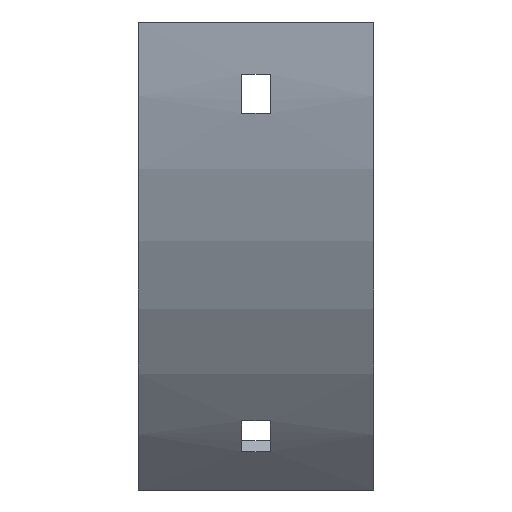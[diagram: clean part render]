
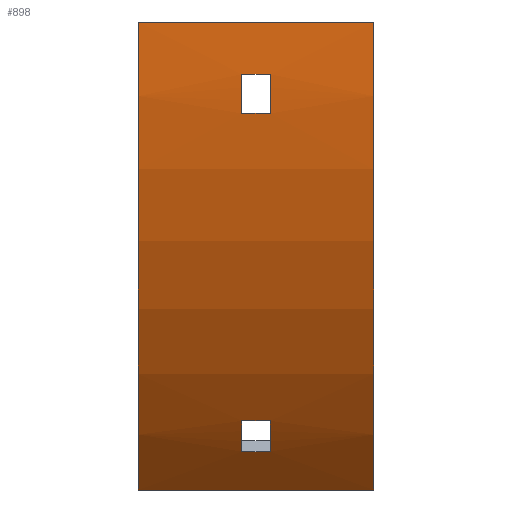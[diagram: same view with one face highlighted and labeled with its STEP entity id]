
A CAD part, front view. The second image highlights one B-rep face of the part: STEP entity #898.
In plain terms, the highlighted cylindrical face has radius 152 mm (diameter 304 mm), a partial arc.
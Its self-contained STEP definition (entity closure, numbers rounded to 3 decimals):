
#5 = CARTESIAN_POINT ( 'NONE',  ( -27., -52., 0. ) ) ;
#17 = CARTESIAN_POINT ( 'NONE',  ( -27., -7.48, -107.48 ) ) ;
#34 = CARTESIAN_POINT ( 'NONE',  ( 3.25, -21.299, -91.6 ) ) ;
#51 = CARTESIAN_POINT ( 'NONE',  ( 3.25, -51.526, -12. ) ) ;
#54 = VERTEX_POINT ( 'NONE', #51 ) ;
#59 = VERTEX_POINT ( 'NONE', #406 ) ;
#69 = DIRECTION ( 'NONE',  ( 0., 0., 1. ) ) ;
#71 = CARTESIAN_POINT ( 'NONE',  ( 27., 100., 0. ) ) ;
#77 = AXIS2_PLACEMENT_3D ( 'NONE', #879, #83, #69 ) ;
#83 = DIRECTION ( 'NONE',  ( -1., 0., 0. ) ) ;
#91 = ORIENTED_EDGE ( 'NONE', *, *, #616, .T. ) ;
#114 = CARTESIAN_POINT ( 'NONE',  ( 27., -52., 0. ) ) ;
#116 = VERTEX_POINT ( 'NONE', #903 ) ;
#120 = VECTOR ( 'NONE', #1040, 1000. ) ;
#128 = DIRECTION ( 'NONE',  ( 1., 0., 0. ) ) ;
#130 = CARTESIAN_POINT ( 'NONE',  ( 27., -21.299, -91.6 ) ) ;
#133 = EDGE_LOOP ( 'NONE', ( #880, #906, #528, #184 ) ) ;
#160 = DIRECTION ( 'NONE',  ( -1., 0., 0. ) ) ;
#171 = VERTEX_POINT ( 'NONE', #17 ) ;
#173 = VERTEX_POINT ( 'NONE', #552 ) ;
#175 = CYLINDRICAL_SURFACE ( 'NONE', #77, 152. ) ;
#184 = ORIENTED_EDGE ( 'NONE', *, *, #1081, .F. ) ;
#200 = CARTESIAN_POINT ( 'NONE',  ( 3.25, -50.542, -21. ) ) ;
#221 = VERTEX_POINT ( 'NONE', #1091 ) ;
#223 = EDGE_CURVE ( 'NONE', #292, #1082, #294, .T. ) ;
#225 = ORIENTED_EDGE ( 'NONE', *, *, #854, .T. ) ;
#233 = CIRCLE ( 'NONE', #770, 152. ) ;
#240 = EDGE_CURVE ( 'NONE', #59, #171, #914, .T. ) ;
#246 = CARTESIAN_POINT ( 'NONE',  ( 27., -50.542, -21. ) ) ;
#251 = EDGE_CURVE ( 'NONE', #472, #171, #1104, .T. ) ;
#263 = DIRECTION ( 'NONE',  ( 0., 0., 1. ) ) ;
#292 = VERTEX_POINT ( 'NONE', #34 ) ;
#294 = LINE ( 'NONE', #130, #1052 ) ;
#296 = AXIS2_PLACEMENT_3D ( 'NONE', #924, #646, #928 ) ;
#327 = VERTEX_POINT ( 'NONE', #114 ) ;
#355 = AXIS2_PLACEMENT_3D ( 'NONE', #1030, #677, #946 ) ;
#363 = CIRCLE ( 'NONE', #507, 152. ) ;
#365 = CARTESIAN_POINT ( 'NONE',  ( 27., -52., 0. ) ) ;
#382 = VECTOR ( 'NONE', #1097, 1000. ) ;
#394 = CARTESIAN_POINT ( 'NONE',  ( 27., -7.48, -107.48 ) ) ;
#400 = EDGE_CURVE ( 'NONE', #116, #769, #363, .T. ) ;
#406 = CARTESIAN_POINT ( 'NONE',  ( 27., -7.48, -107.48 ) ) ;
#409 = ORIENTED_EDGE ( 'NONE', *, *, #240, .F. ) ;
#410 = DIRECTION ( 'NONE',  ( 0., 0., 1. ) ) ;
#412 = FACE_BOUND ( 'NONE', #1026, .T. ) ;
#423 = CARTESIAN_POINT ( 'NONE',  ( 27., -51.526, -12. ) ) ;
#435 = LINE ( 'NONE', #365, #738 ) ;
#437 = LINE ( 'NONE', #423, #120 ) ;
#449 = DIRECTION ( 'NONE',  ( 0., 0., -1. ) ) ;
#459 = EDGE_CURVE ( 'NONE', #1082, #221, #845, .T. ) ;
#472 = VERTEX_POINT ( 'NONE', #5 ) ;
#475 = CARTESIAN_POINT ( 'NONE',  ( -3.25, -21.299, -91.6 ) ) ;
#476 = ORIENTED_EDGE ( 'NONE', *, *, #400, .T. ) ;
#497 = EDGE_CURVE ( 'NONE', #327, #472, #435, .T. ) ;
#507 = AXIS2_PLACEMENT_3D ( 'NONE', #930, #612, #410 ) ;
#512 = FACE_BOUND ( 'NONE', #133, .T. ) ;
#528 = ORIENTED_EDGE ( 'NONE', *, *, #708, .F. ) ;
#552 = CARTESIAN_POINT ( 'NONE',  ( 3.25, -15.63, -98.659 ) ) ;
#561 = LINE ( 'NONE', #925, #788 ) ;
#577 = AXIS2_PLACEMENT_3D ( 'NONE', #71, #888, #982 ) ;
#582 = EDGE_LOOP ( 'NONE', ( #590, #409, #591, #803 ) ) ;
#590 = ORIENTED_EDGE ( 'NONE', *, *, #251, .T. ) ;
#591 = ORIENTED_EDGE ( 'NONE', *, *, #715, .F. ) ;
#599 = CIRCLE ( 'NONE', #577, 152. ) ;
#612 = DIRECTION ( 'NONE',  ( -1., 0., 0. ) ) ;
#616 = EDGE_CURVE ( 'NONE', #778, #116, #1033, .T. ) ;
#621 = CIRCLE ( 'NONE', #355, 152. ) ;
#646 = DIRECTION ( 'NONE',  ( 1., 0., 0. ) ) ;
#649 = CARTESIAN_POINT ( 'NONE',  ( -3.25, -51.526, -12. ) ) ;
#668 = DIRECTION ( 'NONE',  ( 1., 0., 0. ) ) ;
#677 = DIRECTION ( 'NONE',  ( 1., 0., 0. ) ) ;
#708 = EDGE_CURVE ( 'NONE', #173, #292, #233, .T. ) ;
#715 = EDGE_CURVE ( 'NONE', #327, #59, #599, .T. ) ;
#738 = VECTOR ( 'NONE', #991, 1000. ) ;
#745 = DIRECTION ( 'NONE',  ( -1., 0., 0. ) ) ;
#769 = VERTEX_POINT ( 'NONE', #649 ) ;
#770 = AXIS2_PLACEMENT_3D ( 'NONE', #1065, #797, #263 ) ;
#774 = FACE_OUTER_BOUND ( 'NONE', #582, .T. ) ;
#778 = VERTEX_POINT ( 'NONE', #200 ) ;
#788 = VECTOR ( 'NONE', #128, 1000. ) ;
#797 = DIRECTION ( 'NONE',  ( -1., 0., 0. ) ) ;
#803 = ORIENTED_EDGE ( 'NONE', *, *, #497, .T. ) ;
#845 = CIRCLE ( 'NONE', #886, 152. ) ;
#851 = CARTESIAN_POINT ( 'NONE',  ( -3.25, 100., 0. ) ) ;
#854 = EDGE_CURVE ( 'NONE', #54, #778, #621, .T. ) ;
#879 = CARTESIAN_POINT ( 'NONE',  ( 27., 100., 0. ) ) ;
#880 = ORIENTED_EDGE ( 'NONE', *, *, #459, .F. ) ;
#886 = AXIS2_PLACEMENT_3D ( 'NONE', #851, #668, #449 ) ;
#888 = DIRECTION ( 'NONE',  ( 1., 0., 0. ) ) ;
#898 = ADVANCED_FACE ( 'NONE', ( #774, #412, #512 ), #175, .T. ) ;
#903 = CARTESIAN_POINT ( 'NONE',  ( -3.25, -50.542, -21. ) ) ;
#906 = ORIENTED_EDGE ( 'NONE', *, *, #223, .F. ) ;
#913 = EDGE_CURVE ( 'NONE', #769, #54, #437, .T. ) ;
#914 = LINE ( 'NONE', #394, #382 ) ;
#921 = VECTOR ( 'NONE', #160, 1000. ) ;
#924 = CARTESIAN_POINT ( 'NONE',  ( -27., 100., 0. ) ) ;
#925 = CARTESIAN_POINT ( 'NONE',  ( 27., -15.63, -98.659 ) ) ;
#928 = DIRECTION ( 'NONE',  ( 0., 0., -1. ) ) ;
#930 = CARTESIAN_POINT ( 'NONE',  ( -3.25, 100., 0. ) ) ;
#946 = DIRECTION ( 'NONE',  ( 0., 0., -1. ) ) ;
#982 = DIRECTION ( 'NONE',  ( 0., 0., -1. ) ) ;
#991 = DIRECTION ( 'NONE',  ( -1., 0., 0. ) ) ;
#1026 = EDGE_LOOP ( 'NONE', ( #91, #476, #1035, #225 ) ) ;
#1030 = CARTESIAN_POINT ( 'NONE',  ( 3.25, 100., 0. ) ) ;
#1033 = LINE ( 'NONE', #246, #921 ) ;
#1035 = ORIENTED_EDGE ( 'NONE', *, *, #913, .T. ) ;
#1040 = DIRECTION ( 'NONE',  ( 1., 0., 0. ) ) ;
#1052 = VECTOR ( 'NONE', #745, 1000. ) ;
#1065 = CARTESIAN_POINT ( 'NONE',  ( 3.25, 100., 0. ) ) ;
#1081 = EDGE_CURVE ( 'NONE', #221, #173, #561, .T. ) ;
#1082 = VERTEX_POINT ( 'NONE', #475 ) ;
#1091 = CARTESIAN_POINT ( 'NONE',  ( -3.25, -15.63, -98.659 ) ) ;
#1097 = DIRECTION ( 'NONE',  ( -1., 0., 0. ) ) ;
#1104 = CIRCLE ( 'NONE', #296, 152. ) ;
